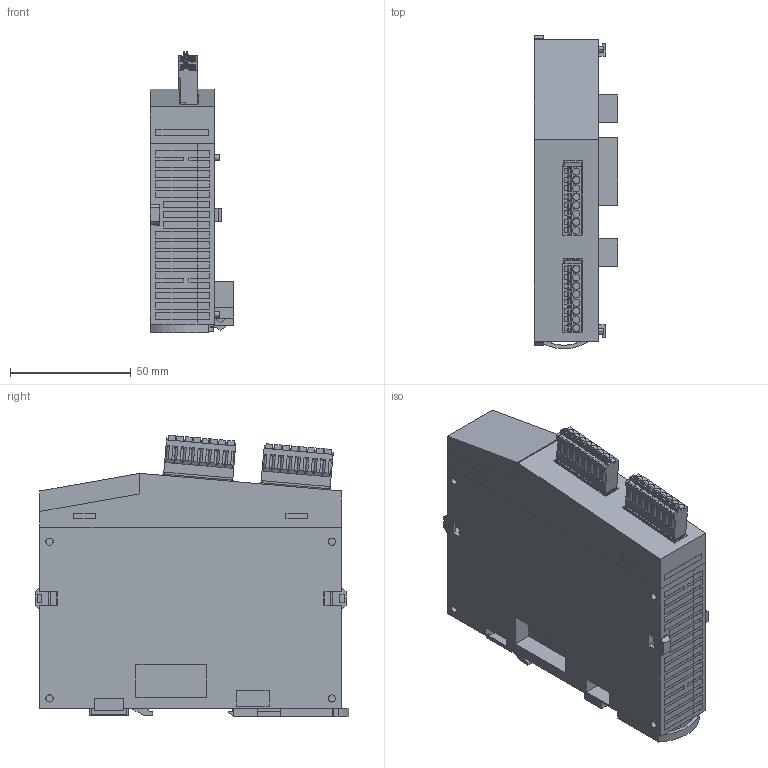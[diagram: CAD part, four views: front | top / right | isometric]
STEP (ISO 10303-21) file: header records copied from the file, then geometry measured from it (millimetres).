
FILE_DESCRIPTION (( 'STEP AP214' ), '1' );
FILE_NAME ('agm1ad8_X_T.STEP', '2021-09-09T00:03:12', ( '' ), ( '' ), 'SwSTEP 2.0', 'SolidWorks 2019', '' );
FILE_SCHEMA (( 'AUTOMOTIVE_DESIGN' ));
Length unit declared in the file: millimetre
Products named in the file (1): agm1ad8_X_T
Bounding box: 34.6 x 129.95 x 116.74 mm (x, y, z)
Volume: 317971.2 mm3; surface area: 46789.7 mm2
Topology: 3 solids, 3 shells, 1582 faces, 4323 edges, 2812 vertices
Faces by surface type: plane 1418, cylinder 160, cone 4
Entity records: 50254 total; most frequent: CARTESIAN_POINT 8940, ORIENTED_EDGE 8646, DIRECTION 7687, EDGE_CURVE 4323, LINE 3977, VECTOR 3977, VERTEX_POINT 2812, AXIS2_PLACEMENT_3D 1855
